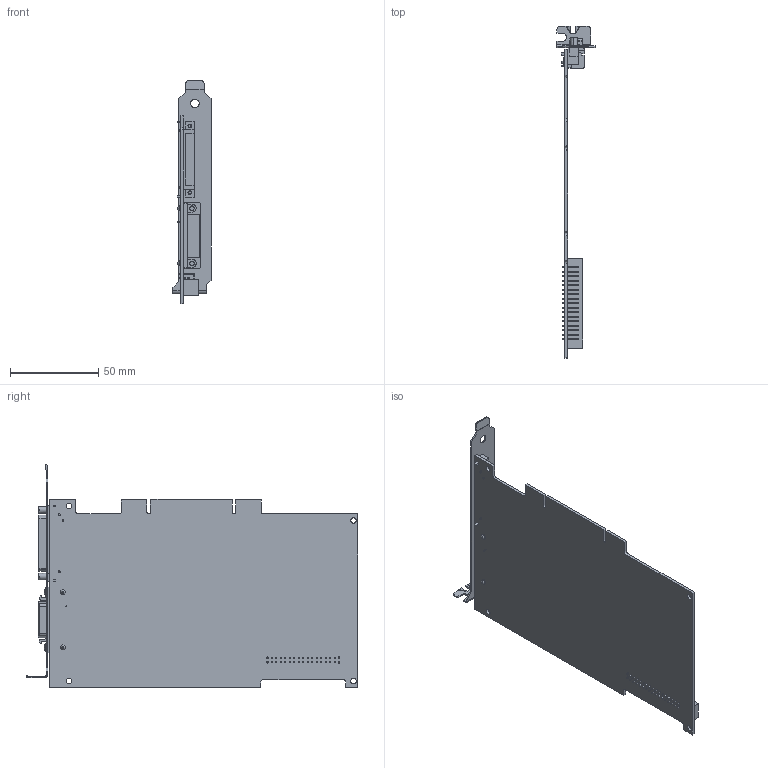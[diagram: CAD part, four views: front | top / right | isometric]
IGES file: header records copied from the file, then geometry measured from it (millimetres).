
Start section:  PTC IGES file: cu_pci-1428.igs
Global section: file name: cu_pci-1428.igs; native system: Pro/ENGINEER by Parametric Technology Corporation; preprocessor: 2010230; author: dkendric; organization: Unknown; date: 20110816.114455; units: inch
Bounding box: 21.59 x 187.77 x 126.21 mm (x, y, z)
Surface area: 46644.4 mm2 (no closed solid volume)
Topology: 0 solids, 0 shells, 1004 faces, 5508 edges, 5508 vertices
Faces by surface type: bspline 785, revolution 219
